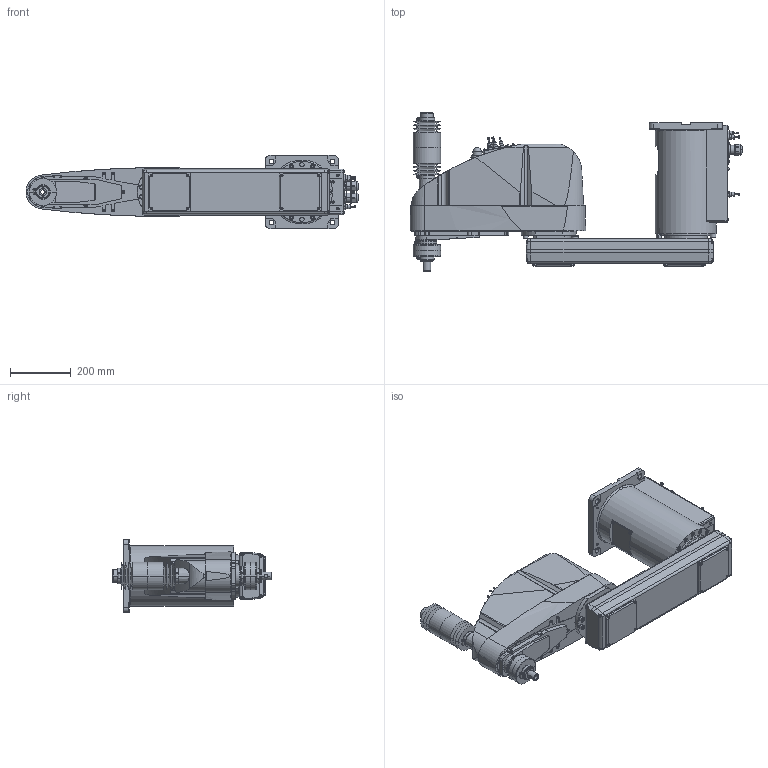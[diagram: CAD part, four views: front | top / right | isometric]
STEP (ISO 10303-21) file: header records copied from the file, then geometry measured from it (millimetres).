
FILE_DESCRIPTION( ( '' ), '1' );
FILE_NAME( '//expscmdclustefs.cadenas.external/client_exchange/iodir/jobs/output/wkb51509599_no0/STEP/G10_851DR_2_03.stp', '2012-11-22T14:37:48', ( '' ), ( '' ), ' ', ' ', ' ' );
FILE_SCHEMA( ( 'CONFIG_CONTROL_DESIGN' ) );
Length unit declared in the file: millimetre
Products named in the file (8): 1; 2; 3; 4; 5; 6; 7; 8
Bounding box: 1089.5 x 518.5 x 240 mm (x, y, z)
Volume: 41694380.7 mm3; surface area: 1612156.5 mm2
Topology: 8 solids, 9 shells, 2075 faces, 4994 edges, 3204 vertices
Faces by surface type: plane 1075, cylinder 682, cone 290, torus 27, sphere 1
Entity records: 62375 total; most frequent: CARTESIAN_POINT 12374, DIRECTION 10726, ORIENTED_EDGE 9956, EDGE_CURVE 4978, AXIS2_PLACEMENT_3D 3811, VERTEX_POINT 3204, LINE 3104, VECTOR 3104
